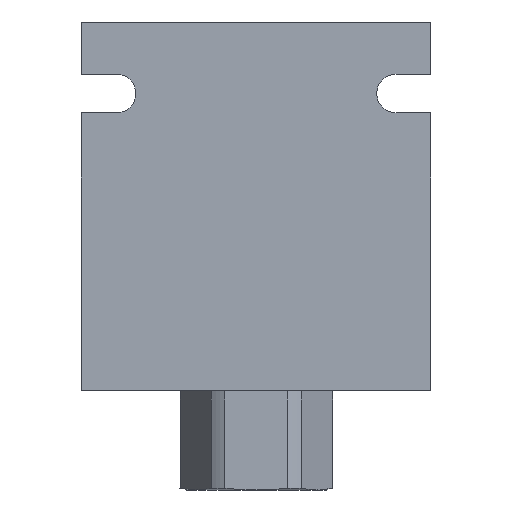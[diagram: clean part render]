
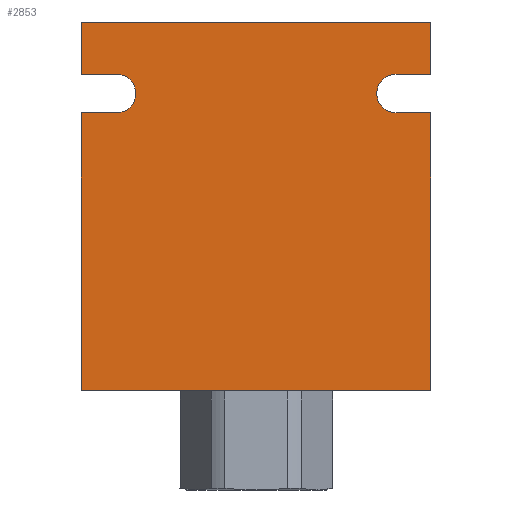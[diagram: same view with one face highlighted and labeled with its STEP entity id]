
A CAD part, front view. The second image highlights one B-rep face of the part: STEP entity #2853.
In plain terms, the highlighted planar face has unit normal (0, -1, 0) as drawn and (0, 0, -1) by its records, which use the part's own axes.
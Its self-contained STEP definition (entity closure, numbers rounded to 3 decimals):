
#330=LINE('',#5301,#445);
#336=LINE('',#5410,#451);
#337=LINE('',#5498,#452);
#343=LINE('',#5540,#458);
#350=LINE('',#5557,#465);
#351=LINE('',#5559,#466);
#352=LINE('',#5563,#467);
#353=LINE('',#5564,#468);
#354=LINE('',#5566,#469);
#355=LINE('',#5568,#470);
#445=VECTOR('',#4555,1000.);
#451=VECTOR('',#4569,1000.);
#452=VECTOR('',#4574,1000.);
#458=VECTOR('',#4584,1000.);
#465=VECTOR('',#4599,1000.);
#466=VECTOR('',#4600,1000.);
#467=VECTOR('',#4603,1000.);
#468=VECTOR('',#4604,1000.);
#469=VECTOR('',#4605,1000.);
#470=VECTOR('',#4606,1000.);
#862=ORIENTED_EDGE('',*,*,#1535,.F.);
#863=ORIENTED_EDGE('',*,*,#1480,.T.);
#864=ORIENTED_EDGE('',*,*,#1441,.T.);
#865=ORIENTED_EDGE('',*,*,#1526,.T.);
#866=ORIENTED_EDGE('',*,*,#1536,.T.);
#867=ORIENTED_EDGE('',*,*,#1537,.T.);
#868=ORIENTED_EDGE('',*,*,#1538,.T.);
#869=ORIENTED_EDGE('',*,*,#1510,.T.);
#870=ORIENTED_EDGE('',*,*,#1539,.T.);
#871=ORIENTED_EDGE('',*,*,#1540,.T.);
#872=ORIENTED_EDGE('',*,*,#1541,.F.);
#873=ORIENTED_EDGE('',*,*,#1542,.F.);
#1441=EDGE_CURVE('',#1807,#1808,#330,.T.);
#1480=EDGE_CURVE('',#1845,#1807,#336,.T.);
#1510=EDGE_CURVE('',#1875,#1876,#337,.T.);
#1526=EDGE_CURVE('',#1808,#1890,#343,.T.);
#1535=EDGE_CURVE('',#1845,#1897,#350,.T.);
#1536=EDGE_CURVE('',#1890,#1898,#351,.T.);
#1537=EDGE_CURVE('',#1898,#1899,#2081,.F.);
#1538=EDGE_CURVE('',#1899,#1875,#352,.T.);
#1539=EDGE_CURVE('',#1876,#1900,#353,.T.);
#1540=EDGE_CURVE('',#1900,#1901,#354,.T.);
#1541=EDGE_CURVE('',#1902,#1901,#355,.T.);
#1542=EDGE_CURVE('',#1897,#1902,#2082,.T.);
#1807=VERTEX_POINT('',#5302);
#1808=VERTEX_POINT('',#5303);
#1845=VERTEX_POINT('',#5408);
#1875=VERTEX_POINT('',#5499);
#1876=VERTEX_POINT('',#5500);
#1890=VERTEX_POINT('',#5539);
#1897=VERTEX_POINT('',#5558);
#1898=VERTEX_POINT('',#5560);
#1899=VERTEX_POINT('',#5562);
#1900=VERTEX_POINT('',#5565);
#1901=VERTEX_POINT('',#5567);
#1902=VERTEX_POINT('',#5569);
#2081=CIRCLE('',#4110,3.5);
#2082=CIRCLE('',#4111,3.5);
#2230=EDGE_LOOP('',(#862,#863,#864,#865,#866,#867,#868,#869,#870,#871,#872,
#873));
#2505=FACE_BOUND('',#2230,.T.);
#2694=PLANE('',#4109);
#2853=ADVANCED_FACE('',(#2505),#2694,.T.);
#4109=AXIS2_PLACEMENT_3D('',#5556,#4597,#4598);
#4110=AXIS2_PLACEMENT_3D('',#5561,#4601,#4602);
#4111=AXIS2_PLACEMENT_3D('',#5570,#4607,#4608);
#4555=DIRECTION('',(0.,1.,0.));
#4569=DIRECTION('',(-1.,0.,0.));
#4574=DIRECTION('',(1.,0.,0.));
#4584=DIRECTION('',(1.,0.,0.));
#4597=DIRECTION('',(0.,0.,-1.));
#4598=DIRECTION('',(-1.,0.,0.));
#4599=DIRECTION('',(0.,1.,0.));
#4600=DIRECTION('',(0.,-1.,0.));
#4601=DIRECTION('',(0.,0.,-1.));
#4602=DIRECTION('',(-1.,0.,0.));
#4603=DIRECTION('',(0.,1.,0.));
#4604=DIRECTION('',(0.,-1.,0.));
#4605=DIRECTION('',(-1.,0.,0.));
#4606=DIRECTION('',(0.,-1.,0.));
#4607=DIRECTION('',(0.,0.,-1.));
#4608=DIRECTION('',(-1.,0.,0.));
#5301=CARTESIAN_POINT('',(-33.5,-31.75,0.));
#5302=CARTESIAN_POINT('',(-33.5,-31.75,0.));
#5303=CARTESIAN_POINT('',(-33.5,31.75,0.));
#5408=CARTESIAN_POINT('',(-24.,-31.75,0.));
#5410=CARTESIAN_POINT('',(33.5,-31.75,0.));
#5498=CARTESIAN_POINT('',(-33.5,31.75,0.));
#5499=CARTESIAN_POINT('',(-17.,31.75,0.));
#5500=CARTESIAN_POINT('',(33.5,31.75,0.));
#5539=CARTESIAN_POINT('',(-24.,31.75,0.));
#5540=CARTESIAN_POINT('',(-33.5,31.75,0.));
#5556=CARTESIAN_POINT('',(0.,0.,0.));
#5557=CARTESIAN_POINT('',(-24.,0.,0.));
#5558=CARTESIAN_POINT('',(-24.,-25.45,0.));
#5559=CARTESIAN_POINT('',(-24.,0.,0.));
#5560=CARTESIAN_POINT('',(-24.,25.35,0.));
#5561=CARTESIAN_POINT('',(-20.5,25.35,0.));
#5562=CARTESIAN_POINT('',(-17.,25.35,0.));
#5563=CARTESIAN_POINT('',(-17.,0.,0.));
#5564=CARTESIAN_POINT('',(33.5,31.75,0.));
#5565=CARTESIAN_POINT('',(33.5,-31.75,0.));
#5566=CARTESIAN_POINT('',(33.5,-31.75,0.));
#5567=CARTESIAN_POINT('',(-17.,-31.75,0.));
#5568=CARTESIAN_POINT('',(-17.,0.,0.));
#5569=CARTESIAN_POINT('',(-17.,-25.45,0.));
#5570=CARTESIAN_POINT('',(-20.5,-25.45,0.));
